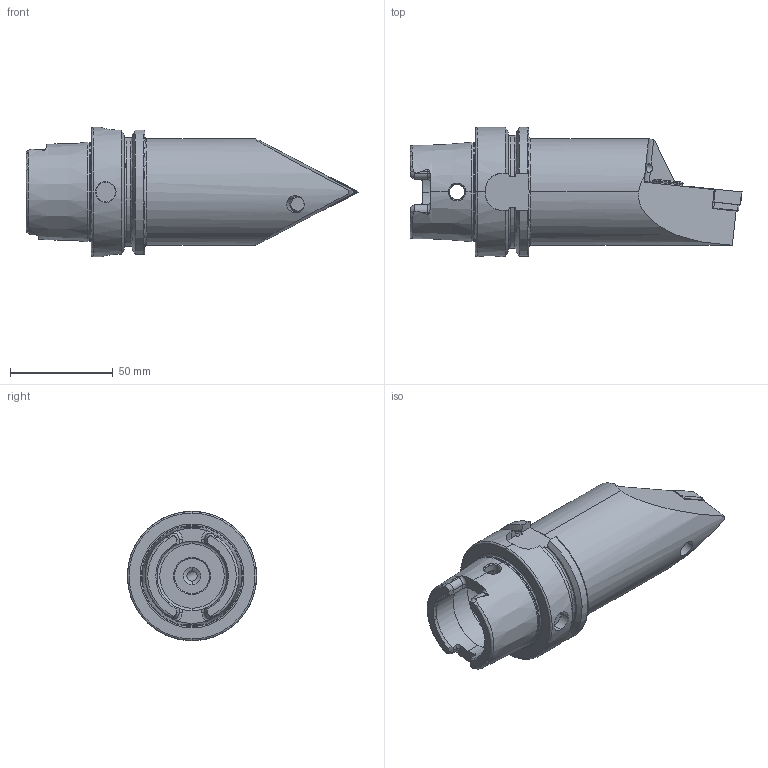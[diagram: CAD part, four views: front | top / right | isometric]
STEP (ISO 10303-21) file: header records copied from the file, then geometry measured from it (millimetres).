
FILE_DESCRIPTION (( 'STEP AP214' ), '1' );
FILE_NAME ('HA6.PDF.NNA.130-HP.STEP', '2020-09-11T11:15:30', ( '' ), ( '' ), 'SwSTEP 2.0', 'SolidWorks 2017', '' );
FILE_SCHEMA (( 'AUTOMOTIVE_DESIGN' ));
Length unit declared in the file: millimetre
Products named in the file (13): ISO 8752 2x8; HA6-PDF.NNA.130-HP_C; HA6.PDF.NNA.130-HP; WDF-ER2.101.003_A; CHP-ER1.015.006; WCD-ER1.101.000; WDF-ER3.101.000_A; CHP-ER1.015.006_A; DNMG150604; CHP-ER1.008.014_A; WCD-ER4.101.017_A; DIN 3771 - 13x1; DIN 7991 - M5x15
Assembly tree (12 placements, depth 3):
  HA6.PDF.NNA.130-HP
    HA6-PDF.NNA.130-HP_C
    DNMG150604
    WDF-ER3.101.000_A
    WCD-ER1.101.000
    WCD-ER4.101.017_A
    WDF-ER2.101.003_A
    ISO 8752 2x8
    CHP-ER1.015.006
      CHP-ER1.015.006_A
      DIN 3771 - 13x1
      DIN 7991 - M5x15
    CHP-ER1.008.014_A
Bounding box: 161.9 x 63 x 63 mm (x, y, z)
Volume: 229568.3 mm3; surface area: 42695.5 mm2
Topology: 11 solids, 11 shells, 483 faces, 1197 edges, 725 vertices
Faces by surface type: plane 156, cylinder 131, cone 117, torus 55, bspline 24
Entity records: 17528 total; most frequent: CARTESIAN_POINT 5226, ORIENTED_EDGE 2358, DIRECTION 2296, EDGE_CURVE 1179, AXIS2_PLACEMENT_3D 900, VERTEX_POINT 725, EDGE_LOOP 512, LINE 496
